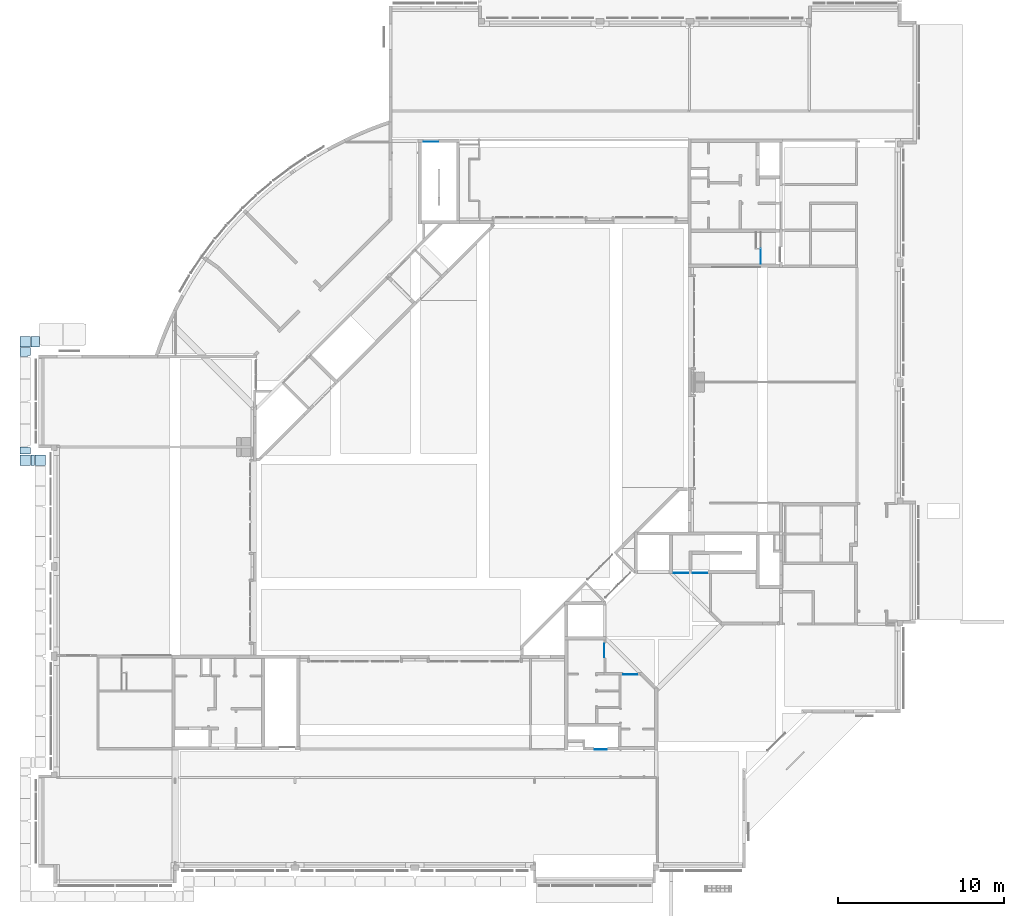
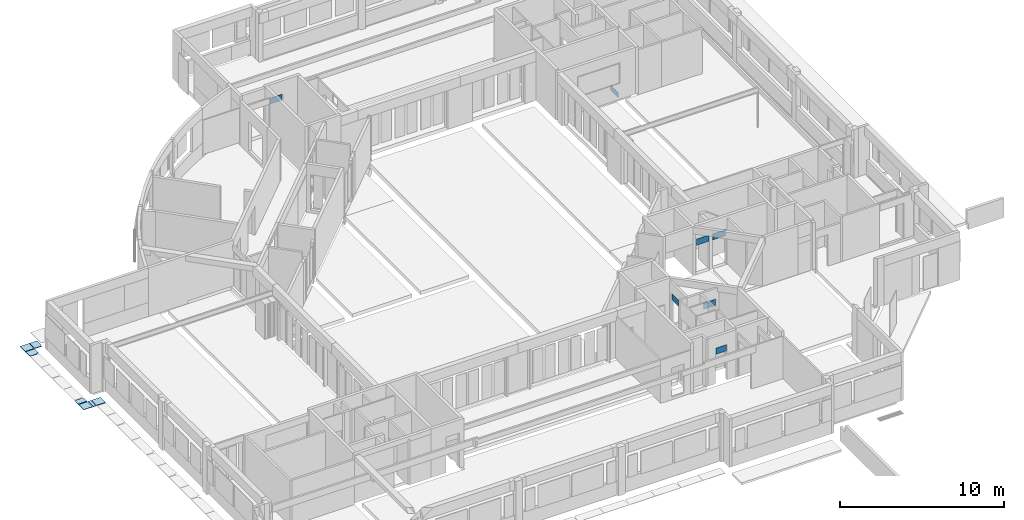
# One storey, part 12 of 30: 8 slabs, 6 plates.
"""IFC4X3_ADD2 building model written with IfcOpenShell, lengths in millimetres."""

from ifc_helpers import new_model, si_unit, direction, frame, frame_2d, origin_with_axes, origin_2d_with_axis, place, context, subcontext, project, spatial, polyline, rectangle, outline, extrude, source, transform, mapped, material, type_object, element, save


model = new_model("IFC4X3_ADD2")

# Units and contexts
model_context = context("Model", 3, precision=1e-05, world=origin_with_axes(), true_north=direction((0.0, 1.0)))
body_context = subcontext(model_context, "Body", "Model", "MODEL_VIEW")
ifc_project = project(units=[si_unit("LENGTHUNIT", "METRE", prefix="MILLI"), si_unit("AREAUNIT", "SQUARE_METRE"), si_unit("VOLUMEUNIT", "CUBIC_METRE"), si_unit("PLANEANGLEUNIT", "RADIAN"), si_unit("TIMEUNIT", "SECOND"), si_unit("MASSUNIT", "GRAM")], contexts=[model_context])

# Site, building, storey
site_placement = place(None, origin_with_axes())
site = spatial("IfcSite", under=ifc_project, at=site_placement, Name="Site", CompositionType="ELEMENT")
building_placement = place(site_placement, origin_with_axes())
building = spatial("IfcBuilding", under=site, at=building_placement, Name="IFC Building Story")
storey_placement = place(building_placement, origin_with_axes())
storey = spatial("IfcBuildingStorey", under=building, at=storey_placement, Name="000", Elevation=0.0)

# Plates
ifc_material_1 = material(Name="BB_Glas")
shared_shape_1 = source(origin_with_axes(), body_context, "Body", "SweptSolid", [
    extrude(rectangle(XDim=878.000000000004, YDim=454.000000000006, at=origin_2d_with_axis()), frame((0.0, 0.0, -17.0), z_axis=(0.0, 0.0, 1.0), x_axis=(1.0, 0.0, 0.0)), (0.0, 0.0, 1.0), 17.0),
])
for number, where, z_axis, x_axis, name in (
    (1, (-13107.4999999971, 17617.0, 2284.0), (0.0, -1.0, 0.0), (1.0, 0.0, 0.0), "BB_10.10_Binnenbeglazing, rechthoekig_GMO:XX_Geen"),
    (2, (-28120.0, 43532.0, 2284.0), (0.0, -1.0, 0.0), (1.0, 0.0, 0.0), "BB_10.10_Binnenbeglazing, rechthoekig_GMO:XX_Geen"),
):
    element("IfcPlate", number, at=place(storey_placement, frame(where, z_axis=z_axis, x_axis=x_axis)), inside=storey, material=ifc_material_1, Name=name, ObjectType="BB_10.10_Binnenbeglazing, rechthoekig_GMO:XX_Geen", PredefinedType="USERDEFINED", context=body_context, shape_type="MappedRepresentation", body=[
        mapped(shared_shape_1, transform((0.0, 0.0, 0.0))),
    ])
shared_shape_2 = source(origin_with_axes(), body_context, "Body", "SweptSolid", [
    extrude(rectangle(XDim=728.000000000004, YDim=454.000000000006, at=origin_2d_with_axis()), frame((0.0, 0.0, -17.0), z_axis=(0.0, 0.0, 1.0), x_axis=(1.0, 0.0, 0.0)), (0.0, 0.0, 1.0), 17.0),
])
plate_1_placement = place(storey_placement, frame((-17930.0820395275, 7017.0, 2284.0), z_axis=(0.0, -1.0, 0.0), x_axis=(-1.0, 0.0, 0.0)))
element("IfcPlate", 3, at=plate_1_placement, inside=storey, material=ifc_material_1, Name="BB_10.10_Binnenbeglazing, rechthoekig_GMO:XX_Geen", ObjectType="BB_10.10_Binnenbeglazing, rechthoekig_GMO:XX_Geen", PredefinedType="USERDEFINED", context=body_context, shape_type="MappedRepresentation", body=[
    mapped(shared_shape_2, transform((0.0, 0.0, 0.0))),
])
shared_shape_3 = source(origin_with_axes(), body_context, "Body", "SweptSolid", [
    extrude(rectangle(XDim=828.000000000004, YDim=454.000000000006, at=origin_2d_with_axis()), frame((0.0, 0.0, -17.0), z_axis=(0.0, 0.0, 1.0), x_axis=(1.0, 0.0, 0.0)), (0.0, 0.0, 1.0), 17.0),
])
for number, where, z_axis, x_axis, name in (
    (4, (-17724.0, 12970.0, 2284.0), (-1.0, 0.0, 0.0), (0.0, -1.0, 0.0), "BB_10.10_Binnenbeglazing, rechthoekig_GMO:XX_Geen"),
    (5, (-16147.0, 11526.0, 2284.0), (0.0, -1.0, 0.0), (1.0, 0.0, 0.0), "BB_10.10_Binnenbeglazing, rechthoekig_GMO:XX_Geen"),
):
    element("IfcPlate", number, at=place(storey_placement, frame(where, z_axis=z_axis, x_axis=x_axis)), inside=storey, material=ifc_material_1, Name=name, ObjectType="BB_10.10_Binnenbeglazing, rechthoekig_GMO:XX_Geen", PredefinedType="USERDEFINED", context=body_context, shape_type="MappedRepresentation", body=[
        mapped(shared_shape_3, transform((0.0, 0.0, 0.0))),
    ])
shared_shape_4 = source(origin_with_axes(), body_context, "Body", "SweptSolid", [
    extrude(rectangle(XDim=878.000000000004, YDim=454.000000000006, at=origin_2d_with_axis()), frame((0.0, 0.0, -17.0), z_axis=(0.0, 0.0, 1.0), x_axis=(1.0, 0.0, 0.0)), (0.0, 0.0, 1.0), 17.0),
])
plate_2_placement = place(storey_placement, frame((-11957.4999999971, 17617.0, 2284.0), z_axis=(0.0, -1.0, 0.0), x_axis=(-1.0, 0.0, 0.0)))
element("IfcPlate", 6, at=plate_2_placement, inside=storey, material=ifc_material_1, Name="BB_10.10_Binnenbeglazing, rechthoekig_GMO:XX_Geen", ObjectType="BB_10.10_Binnenbeglazing, rechthoekig_GMO:XX_Geen", PredefinedType="USERDEFINED", context=body_context, shape_type="MappedRepresentation", body=[
    mapped(shared_shape_4, transform((0.0, 0.0, 0.0))),
])

# Slabs
ifc_material_2 = material(Name="BB_09.08.21#03_Vloer_Verhoogd_Bestaande te verhogen")
slab_type_1 = type_object("IfcSlabType", Name="BB_09.08.21#03_Vloer_Verhoogd_Bestaande te verhogen 20", PredefinedType="FLOOR", material=ifc_material_2)
slab_1_placement = place(storey_placement, frame((-8320.0, 37119.99999999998, -80.0), z_axis=(-1.0, 0.0, 0.0), x_axis=(0.0, -1.0, 0.0)))
element("IfcSlab", 7, at=slab_1_placement, inside=storey, type_object=slab_type_1, Name="Basic Wall:BB_09.08.XX_Rand verhoogde vloer, 20 mm", ObjectType="Basic Wall:BB_09.08.XX_Rand verhoogde vloer, 20 mm", PredefinedType="FLOOR", context=body_context, shape_type="SweptSolid", body=[
    extrude(outline(polyline([(-459.9999999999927, 187.5), (459.9999999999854, 187.5), (459.9999999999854, -187.5), (-459.9999999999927, -187.5), (-459.9999999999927, 187.5)])), frame((459.9999999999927, 187.5, -20.0), z_axis=(0.0, 0.0, 1.0), x_axis=(1.0, 0.0, 0.0)), (0.0, 0.0, 1.0), 19.99999999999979),
])
ifc_material_3 = material(Name="Steel, Galvanized - looprooster")
slab_type_2 = type_object("IfcSlabType", Name="Steel, Galvanized - looprooster 30", PredefinedType="FLOOR", material=ifc_material_3)
slab_2_placement = place(storey_placement, frame((-52819.99839785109, 31218.50160214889, -350.0), z_axis=(0.0, 0.0, 1.0), x_axis=(1.0, 0.0, 0.0)))
element("IfcSlab", 8, at=slab_2_placement, inside=storey, type_object=slab_type_2, Name="Floor:GVH - Looprooster 30 mm", ObjectType="Floor:GVH - Looprooster 30 mm", PredefinedType="FLOOR", context=body_context, shape_type="SweptSolid", body=[
    extrude(rectangle(XDim=629.9999999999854, YDim=629.9996566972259, at=origin_2d_with_axis()), frame((314.9999999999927, 314.9998283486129, 0.0), z_axis=(0.0, 0.0, 1.0), x_axis=(1.0, 0.0, 0.0)), (0.0, 0.0, 1.0), 30.0),
])
slab_3_placement = place(storey_placement, frame((-52151.49839785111, 31848.49947740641, -350.0), z_axis=(0.0, 0.0, 1.0), x_axis=(0.0, -1.0, 0.0)))
element("IfcSlab", 9, at=slab_3_placement, inside=storey, type_object=slab_type_2, Name="Floor:GVH - Looprooster 30 mm", ObjectType="Floor:GVH - Looprooster 30 mm", PredefinedType="FLOOR", context=body_context, shape_type="SweptSolid", body=[
    extrude(outline(polyline([(201.3752737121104, 127.8745904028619), (347.8752737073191, 127.8745904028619), (347.8752737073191, -373.6237712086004), (-282.1243829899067, -373.6237712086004), (-282.1243829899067, 107.8745904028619), (-267.1261644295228, 107.8745904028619), (-267.1261644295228, 137.8745904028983), (201.3752737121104, 137.8745904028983), (201.3752737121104, 127.8745904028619)])), frame((282.1243829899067, 373.6237712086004, 0.0), z_axis=(0.0, 0.0, 1.0), x_axis=(1.0, 0.0, 0.0)), (0.0, 0.0, 1.0), 30.0),
])
slab_4_placement = place(storey_placement, frame((-52819.9983978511, 30644.99996376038, -350.0), z_axis=(0.0, 0.0, 1.0), x_axis=(1.0, 0.0, 0.0)))
element("IfcSlab", 10, at=slab_4_placement, inside=storey, type_object=slab_type_2, Name="Floor:GVH - Looprooster 30 mm", ObjectType="Floor:GVH - Looprooster 30 mm", PredefinedType="FLOOR", context=body_context, shape_type="SweptSolid", body=[
    extrude(outline(polyline([(-267.501716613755, -160.1252737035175), (-267.501716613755, -108.1254739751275), (-282.4994277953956, -108.1254739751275), (-282.4994277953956, 376.3760213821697), (347.5005722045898, 376.3760213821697), (347.5005722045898, -108.1252737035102), (202.5005722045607, -108.1252737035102), (202.5005722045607, -160.1252737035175), (-267.501716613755, -160.1252737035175)])), frame((282.4994277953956, 160.1252737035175, 0.0), z_axis=(0.0, 0.0, 1.0), x_axis=(1.0, 0.0, 0.0)), (0.0, 0.0, 1.0), 30.0),
])
for number, where, z_axis, x_axis, name in (
    (11, (-52819.9983978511, 24100.00160214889, -350.0), (0.0, 0.0, 1.0), (1.0, 0.0, 0.0), "Floor:GVH - Looprooster 30 mm"),
    (12, (-51919.9983978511, 24100.00160214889, -350.0), (0.0, 0.0, 1.0), (1.0, 0.0, 0.0), "Floor:GVH - Looprooster 30 mm"),
):
    element("IfcSlab", number, at=place(storey_placement, frame(where, z_axis=z_axis, x_axis=x_axis)), inside=storey, type_object=slab_type_2, Name=name, ObjectType="Floor:GVH - Looprooster 30 mm", PredefinedType="FLOOR", context=body_context, shape_type="SweptSolid", body=[
        extrude(rectangle(XDim=629.9999999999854, YDim=629.9996566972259, at=origin_2d_with_axis()), frame((314.9999999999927, 314.9998283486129, 0.0), z_axis=(0.0, 0.0, 1.0), x_axis=(1.0, 0.0, 0.0)), (0.0, 0.0, 1.0), 30.0),
    ])
slab_5_placement = place(storey_placement, frame((-52154.99839785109, 24730.00125884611, -350.0), z_axis=(0.0, 0.0, 1.0), x_axis=(0.0, -1.0, 0.0)))
element("IfcSlab", 13, at=slab_5_placement, inside=storey, type_object=slab_type_2, Name="Floor:GVH - Looprooster 30 mm", ObjectType="Floor:GVH - Looprooster 30 mm", PredefinedType="FLOOR", context=body_context, shape_type="SweptSolid", body=[
    extrude(rectangle(XDim=629.9996566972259, YDim=199.9999999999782, at=frame_2d((0.0, 0.0), x_axis=(-1.0, 0.0))), frame((314.9998283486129, 99.99999999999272, 0.0), z_axis=(0.0, 0.0, 1.0), x_axis=(1.0, 0.0, 0.0)), (0.0, 0.0, 1.0), 30.0),
])
slab_6_placement = place(storey_placement, frame((-52819.99950666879, 24768.50125884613, -350.0), z_axis=(0.0, 0.0, 1.0), x_axis=(1.0, 0.0, 0.0)))
element("IfcSlab", 14, at=slab_6_placement, inside=storey, type_object=slab_type_2, Name="Floor:GVH - Looprooster 30 mm", ObjectType="Floor:GVH - Looprooster 30 mm", PredefinedType="FLOOR", context=body_context, shape_type="SweptSolid", body=[
    extrude(outline(polyline([(347.5005750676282, 85.12462616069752), (347.5005750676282, -306.8034127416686), (-282.4999850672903, -306.8034127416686), (-282.4999850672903, 84.5541604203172), (-267.5011650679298, 84.5541604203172), (-267.5011650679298, 137.1246261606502), (202.500575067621, 137.1246261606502), (202.500575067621, 85.12462616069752), (347.5005750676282, 85.12462616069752)])), frame((282.4999850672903, 306.8034127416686, 0.0), z_axis=(0.0, 0.0, 1.0), x_axis=(1.0, 0.0, 0.0)), (0.0, 0.0, 1.0), 30.0),
])

save(model, "model.ifc")
